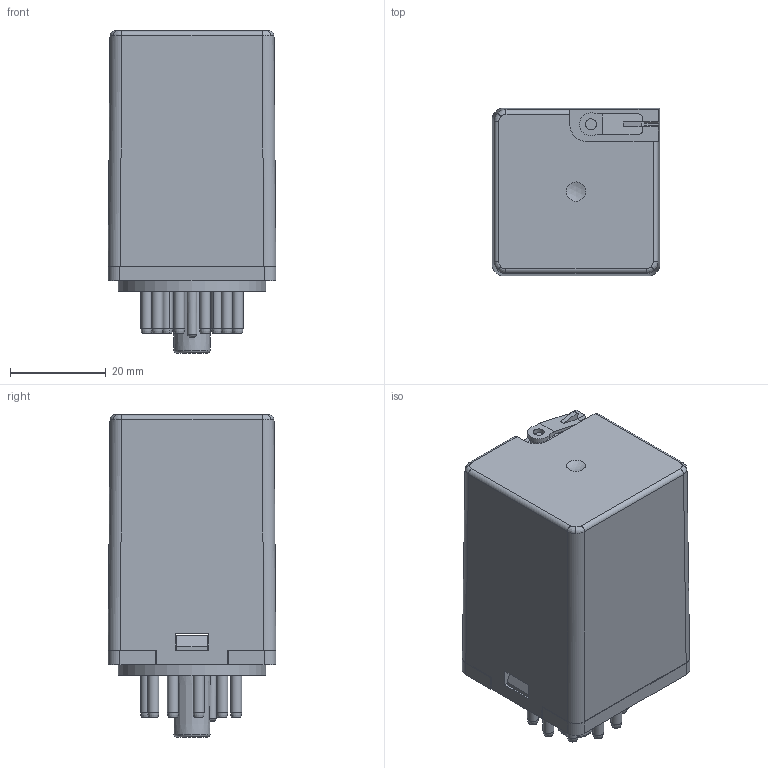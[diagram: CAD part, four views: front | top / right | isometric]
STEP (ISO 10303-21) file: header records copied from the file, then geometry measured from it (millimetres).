
FILE_DESCRIPTION(/* description */ ('STEP AP214'),/* implementation_level */ '2;1');
FILE_NAME(/* name */ 'I:\TI\Inventor\Panelen\Algemeen\Relais\Relpol relays 3D files\G11\G11.stp',/* time_stamp */ '2021-06-03T13:45:11+02:00',/* author */ ('nbinnendijk'),/* organization */ ('Mors Smitt'),/* preprocessor_version */ 'ST-DEVELOPER v18',/* originating_system */ 'Autodesk Inventor 2020',/* authorisation */ '');
FILE_SCHEMA (('AUTOMOTIVE_DESIGN { 1 0 10303 214 3 1 1 }'));
Length unit declared in the file: millimetre
Products named in the file (4): G11; G11-1; G11-2; G11-3
Assembly tree (13 placements, depth 2):
  G11
    G11-1
    G11-2
    G11-3  x11
Bounding box: 35.05 x 35.05 x 67.2 mm (x, y, z)
Volume: 17074.1 mm3; surface area: 23757.6 mm2
Topology: 14 solids, 14 shells, 540 faces, 1493 edges, 1000 vertices
Faces by surface type: plane 282, cylinder 163, torus 48, bspline 31, cone 14, sphere 2
Full cylindrical faces by diameter (mm): 2.3 x1, 2.35 x11, 3.5 x1, 3.52 x1, 4.5 x1, 30.8 x1
Entity records: 14750 total; most frequent: CARTESIAN_POINT 3296, ORIENTED_EDGE 2386, DIRECTION 2366, EDGE_CURVE 1193, AXIS2_PLACEMENT_3D 808, VERTEX_POINT 800, LINE 750, VECTOR 750
